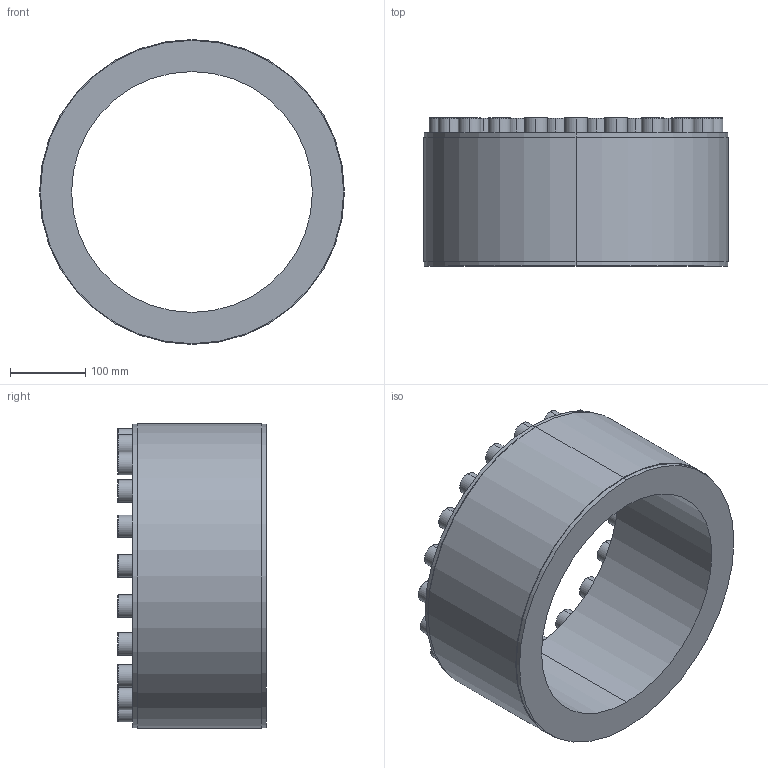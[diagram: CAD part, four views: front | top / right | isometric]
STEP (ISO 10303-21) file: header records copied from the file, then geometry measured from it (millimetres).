
FILE_DESCRIPTION (( 'STEP AP214' ), '1' );
FILE_NAME ('PL-D1 320-405.STEP', '2021-10-23T00:25:15', ( '' ), ( '' ), 'SwSTEP 2.0', 'SolidWorks 2018', '' );
FILE_SCHEMA (( 'AUTOMOTIVE_DESIGN' ));
Length unit declared in the file: millimetre
Products named in the file (1): PL-D1 320-405
Bounding box: 405 x 197 x 405 mm (x, y, z)
Volume: 8795814.2 mm3; surface area: 551393.6 mm2
Topology: 1 solids, 1 shells, 264 faces, 612 edges, 394 vertices
Faces by surface type: plane 172, cylinder 50, torus 42
Entity records: 7502 total; most frequent: DIRECTION 1326, CARTESIAN_POINT 1271, ORIENTED_EDGE 1224, EDGE_CURVE 612, AXIS2_PLACEMENT_3D 449, VECTOR 428, LINE 428, VERTEX_POINT 394
